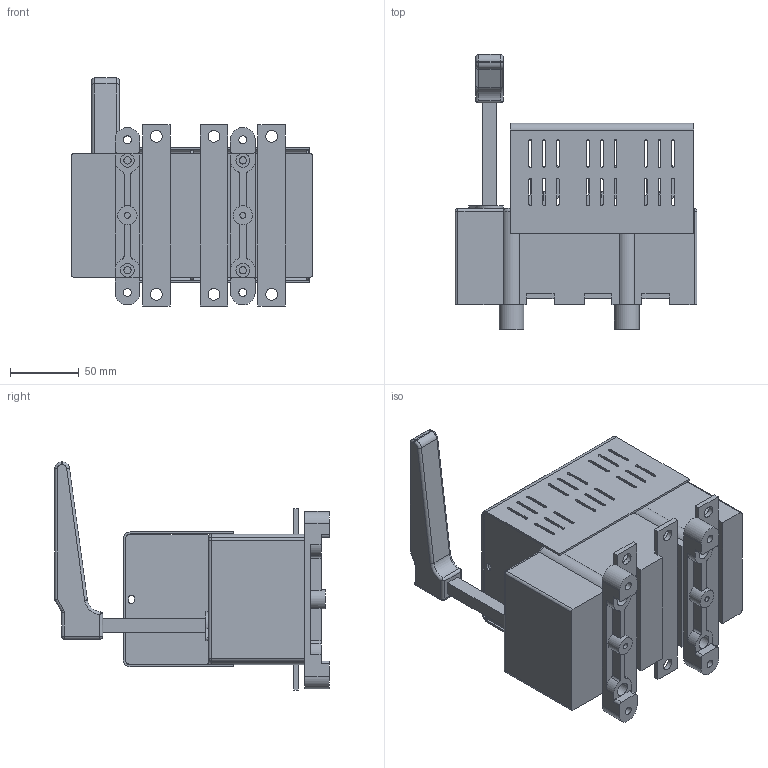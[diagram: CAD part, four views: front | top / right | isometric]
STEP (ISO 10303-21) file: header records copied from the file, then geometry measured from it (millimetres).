
FILE_DESCRIPTION(/* description */ (''),/* implementation_level */ '2;1');
FILE_NAME(/* name */ 'RAB 00 P3-R.stp',/* time_stamp */ '2021-08-19T11:02:49+02:00',/* author */ (''),/* organization */ (''),/* preprocessor_version */ 'ST-DEVELOPER v18.1',/* originating_system */ 'SIEMENS PLM Software NX 1965',/* authorisation */ '');
FILE_SCHEMA (('AUTOMOTIVE_DESIGN { 1 0 10303 214 3 1 1 1 }'));
Length unit declared in the file: millimetre
Products named in the file (1): RAB 00 P3-R_stp
Bounding box: 176 x 200 x 166 mm (x, y, z)
Volume: 1293518.3 mm3; surface area: 227654.3 mm2
Topology: 1 solids, 1 shells, 866 faces, 2419 edges, 1564 vertices
Faces by surface type: plane 540, cylinder 304, torus 12, sphere 10
Full cylindrical faces by diameter (mm): 2.7 x4, 4.3 x2, 5 x6, 5.3 x4, 5.8 x4, 8.5 x6, 10 x8, 14 x2
Entity records: 27533 total; most frequent: CARTESIAN_POINT 4856, ORIENTED_EDGE 4690, DIRECTION 4683, EDGE_CURVE 2345, LINE 1693, VECTOR 1693, VERTEX_POINT 1536, AXIS2_PLACEMENT_3D 1495
